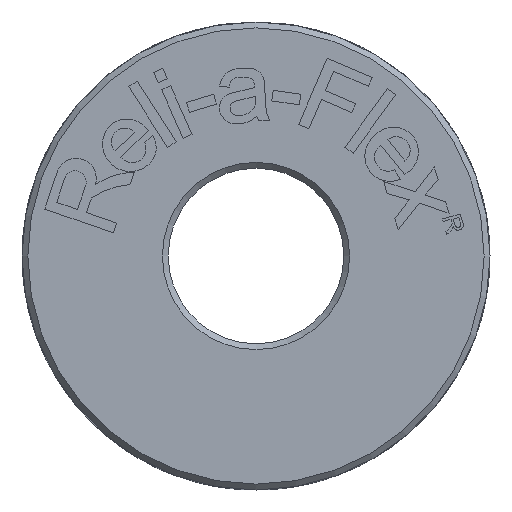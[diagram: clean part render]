
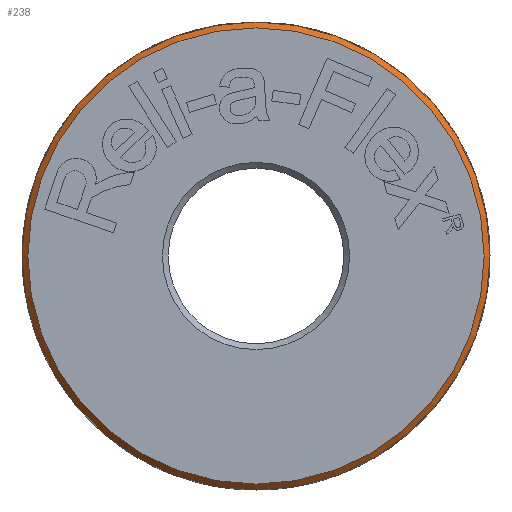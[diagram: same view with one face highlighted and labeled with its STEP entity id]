
A CAD part, front view. The second image highlights one B-rep face of the part: STEP entity #238.
In plain terms, the highlighted conical face has half-angle 45 degrees and reference radius 4 mm.
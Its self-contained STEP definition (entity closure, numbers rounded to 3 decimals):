
#238 = ADVANCED_FACE( '', ( #641, #642 ), #643, .T. );
#641 = FACE_BOUND( '', #1244, .T. );
#642 = FACE_OUTER_BOUND( '', #1245, .T. );
#643 = CONICAL_SURFACE( '', #1246, 4., 0.785 );
#1244 = EDGE_LOOP( '', ( #1951 ) );
#1245 = EDGE_LOOP( '', ( #1952 ) );
#1246 = AXIS2_PLACEMENT_3D( '', #1953, #1954, #1955 );
#1951 = ORIENTED_EDGE( '', *, *, #3396, .F. );
#1952 = ORIENTED_EDGE( '', *, *, #3344, .F. );
#1953 = CARTESIAN_POINT( '', ( 0., 0.1, 0. ) );
#1954 = DIRECTION( '', ( 0., 1., 0. ) );
#1955 = DIRECTION( '', ( 0., 0., 1. ) );
#3344 = EDGE_CURVE( '', #3980, #3980, #3981, .T. );
#3396 = EDGE_CURVE( '', #4073, #4073, #4074, .F. );
#3980 = VERTEX_POINT( '', #4969 );
#3981 = CIRCLE( '', #4970, 4. );
#4073 = VERTEX_POINT( '', #5242 );
#4074 = CIRCLE( '', #5243, 3.9 );
#4969 = CARTESIAN_POINT( '', ( 0., 0.1, 4. ) );
#4970 = AXIS2_PLACEMENT_3D( '', #6328, #6329, #6330 );
#5242 = CARTESIAN_POINT( '', ( 0., 0., 3.9 ) );
#5243 = AXIS2_PLACEMENT_3D( '', #6389, #6390, #6391 );
#6328 = CARTESIAN_POINT( '', ( 0., 0.1, 0. ) );
#6329 = DIRECTION( '', ( 0., 1., 0. ) );
#6330 = DIRECTION( '', ( 0., 0., 1. ) );
#6389 = CARTESIAN_POINT( '', ( 0., 0., 0. ) );
#6390 = DIRECTION( '', ( 0., 1., 0. ) );
#6391 = DIRECTION( '', ( 0., 0., 1. ) );
